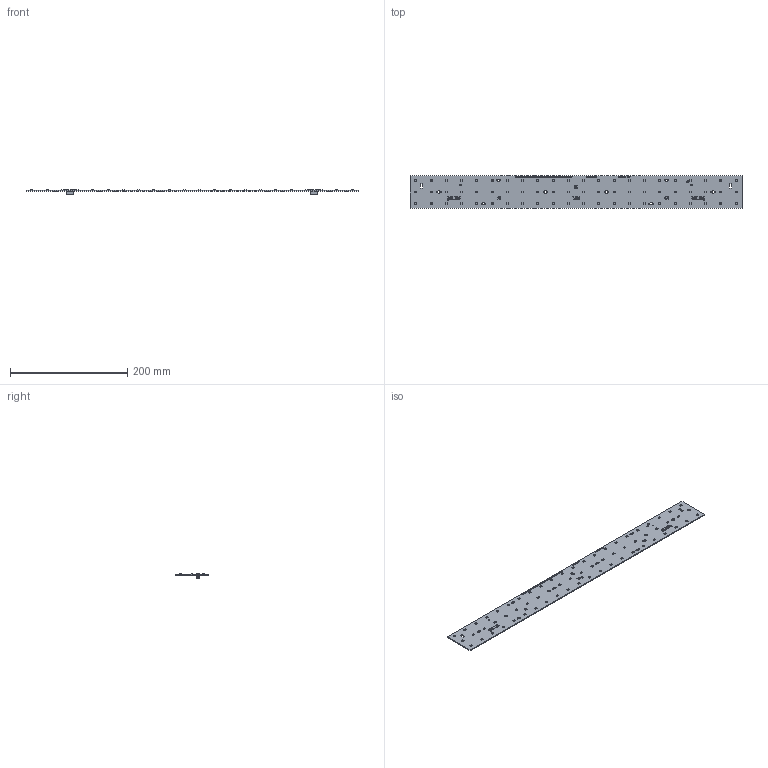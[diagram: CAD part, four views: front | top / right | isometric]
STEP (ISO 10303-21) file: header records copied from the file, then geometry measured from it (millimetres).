
FILE_DESCRIPTION(('Creo Elements/Direct Modeling STEP Export'),'2;1');
FILE_NAME('3D-Model_MLC SC W5.5_566BT_66_yzz G2_BC.stp','2025-05-20T12:11:58',(''),(''),'PTC Creo Elements/Direct Modeling STEP processor for AP214 (Solid Model)','PTC Creo Elements/Direct Modeling 19.0E 27-Jun-2016 (C) Parametric Technology GmbH','');
FILE_SCHEMA(('AUTOMOTIVE_DESIGN { 1 0 10303 214 1 1 1 1 }'));
Length unit declared in the file: millimetre
Products named in the file (185): PRINT.99; PRINT.100; PRINT.97; PRINT.94; PRINT.102; PRINT.96; PRINT.101; PRINT.98; PRINT.103; PRINT.95; PRINT.104; PRINT.59; PRINT.57; PRINT.51; PRINT.52; PRINT.60; PRINT.50; PRINT.55; PRINT.54; PRINT.53; PRINT.56; PRINT.58; PRINT.62; PRINT.68; PRINT.64; PRINT.70; PRINT.66; PRINT.69; PRINT.63; PRINT.61; PRINT.65; PRINT.71; PRINT.67; PRINT.27; PRINT.28; PRINT.21; PRINT.29; PRINT.26; PRINT.24; PRINT.19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
Assembly tree (180 placements, depth 2):
  PRINT1
    PRINT.40
    PRINT.46
    PRINT.42
    PRINT.45
    PRINT.44
    PRINT.47
    PRINT.49
    PRINT.48
    PRINT.43
    PRINT.41
    PRINT.38
    PRINT.39
    PRINT.31
    PRINT.32
    PRINT.37
    PRINT.35
    PRINT.34
    PRINT.33
    PRINT.36
    PRINT.30
    PRINT.73
    PRINT.75
    PRINT.78
    PRINT.77
    PRINT.74
    PRINT.76
    PRINT.80
    PRINT.81
    PRINT.79
    PRINT.72
    PRINT.82
    PRINT.105
    PRINT.109
    PRINT.106
    PRINT.107
    PRINT.110
    PRINT.108
    PRINT.111
    PRINT.18
    PRINT.16
    PRINT.14
    PRINT.17
    PRINT.15
    PRINT.86
    PRINT.91
    PRINT.83
    PRINT.84
    PRINT.87
    PRINT.89
    PRINT.88
    PRINT.90
    PRINT.85
    PRINT.92
    PRINT.93
    PRINT.1
    PRINT.3
    PRINT.4
    PRINT
    PRINT.2
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Bounding box: 566 x 55 x 7.45 mm (x, y, z)
Volume: 50178.7 mm3; surface area: 67818.4 mm2
Topology: 181 solids, 181 shells, 8746 faces, 23844 edges, 15644 vertices
Faces by surface type: plane 6908, cylinder 1826, cone 12
Entity records: 122948 total; most frequent: CARTESIAN_POINT 16915, ORIENTED_EDGE 16358, DIRECTION 16032, EDGE_CURVE 8179, VECTOR 6556, LINE 6556, VERTEX_POINT 5439, AXIS2_PLACEMENT_3D 4738
